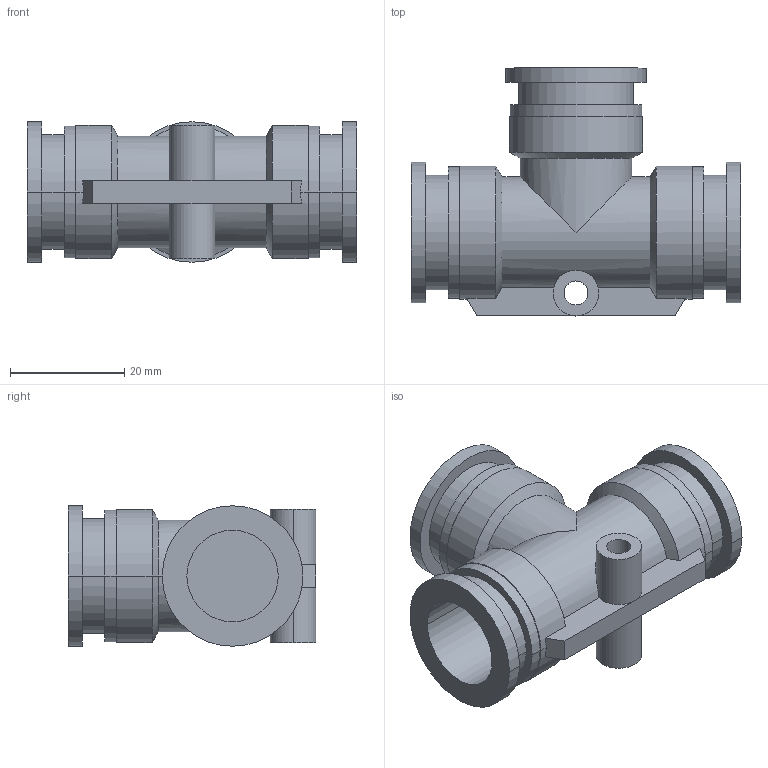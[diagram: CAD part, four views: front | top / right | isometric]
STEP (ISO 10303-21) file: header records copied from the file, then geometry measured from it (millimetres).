
FILE_DESCRIPTION( ( '' ), '1' );
FILE_NAME( 'G:/SMC狟婥/KQ2T16-00A.stp', '2023-03-07T03:25:12', ( '' ), ( '' ), ' ', ' ', ' ' );
FILE_SCHEMA( ( 'CONFIG_CONTROL_DESIGN' ) );
Length unit declared in the file: millimetre
Products named in the file (1): 1
Bounding box: 57.6 x 43.4 x 24.6 mm (x, y, z)
Volume: 16856.2 mm3; surface area: 11548.9 mm2
Topology: 1 solids, 1 shells, 70 faces, 158 edges, 102 vertices
Faces by surface type: cylinder 40, plane 24, cone 6
Entity records: 2098 total; most frequent: CARTESIAN_POINT 405, DIRECTION 384, ORIENTED_EDGE 316, AXIS2_PLACEMENT_3D 161, EDGE_CURVE 158, VERTEX_POINT 102, EDGE_LOOP 84, CIRCLE 82
